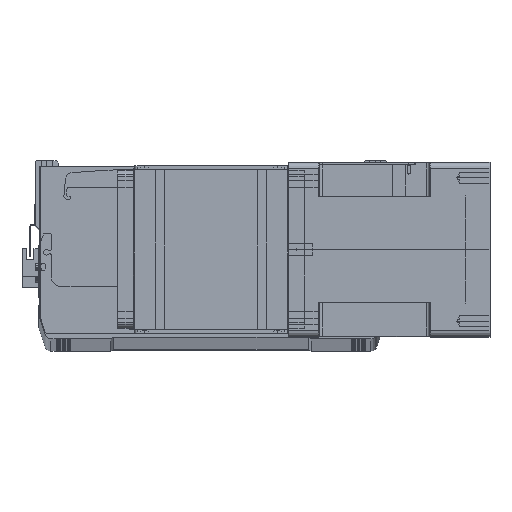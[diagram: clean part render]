
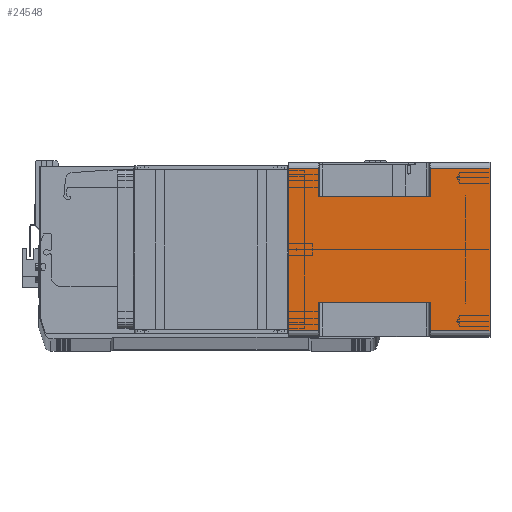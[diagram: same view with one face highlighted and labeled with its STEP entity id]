
A CAD part, top view. The second image highlights one B-rep face of the part: STEP entity #24548.
In plain terms, the highlighted planar face has unit normal (0, 0, 1) as drawn and (1, 0, 0) by its records, which use the part's own axes.
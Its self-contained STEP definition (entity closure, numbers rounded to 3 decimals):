
#4 = DIRECTION ( 'NONE',  ( 0., 1., 0. ) ) ;
#456 = EDGE_CURVE ( 'NONE', #13364, #13873, #38822, .T. ) ;
#817 = DIRECTION ( 'NONE',  ( 0., -1., 0. ) ) ;
#1207 = CARTESIAN_POINT ( 'NONE',  ( 71., -66., -164. ) ) ;
#1883 = CARTESIAN_POINT ( 'NONE',  ( 71., 66., -164. ) ) ;
#2069 = VECTOR ( 'NONE', #3099, 1000. ) ;
#3099 = DIRECTION ( 'NONE',  ( 0., 1., 0. ) ) ;
#3200 = ORIENTED_EDGE ( 'NONE', *, *, #27372, .T. ) ;
#4025 = CARTESIAN_POINT ( 'NONE',  ( 71., -66., -115.5 ) ) ;
#4727 = LINE ( 'NONE', #20976, #11710 ) ;
#5116 = LINE ( 'NONE', #33322, #10604 ) ;
#5260 = LINE ( 'NONE', #1883, #33925 ) ;
#5501 = ORIENTED_EDGE ( 'NONE', *, *, #37075, .T. ) ;
#6479 = VECTOR ( 'NONE', #817, 1000. ) ;
#7031 = DIRECTION ( 'NONE',  ( 0., 0., 1. ) ) ;
#7483 = CARTESIAN_POINT ( 'NONE',  ( 71., 43., -115.5 ) ) ;
#7740 = VECTOR ( 'NONE', #14244, 1000. ) ;
#7841 = VECTOR ( 'NONE', #9252, 1000. ) ;
#7901 = ORIENTED_EDGE ( 'NONE', *, *, #21051, .T. ) ;
#7914 = VERTEX_POINT ( 'NONE', #23309 ) ;
#8844 = CARTESIAN_POINT ( 'NONE',  ( 71., -43., -115.5 ) ) ;
#9172 = ORIENTED_EDGE ( 'NONE', *, *, #28484, .T. ) ;
#9252 = DIRECTION ( 'NONE',  ( 0., -1., 0. ) ) ;
#9408 = CARTESIAN_POINT ( 'NONE',  ( 71., -66., -24.5 ) ) ;
#9967 = DIRECTION ( 'NONE',  ( 1., 0., 0. ) ) ;
#10604 = VECTOR ( 'NONE', #11781, 1000. ) ;
#10803 = CARTESIAN_POINT ( 'NONE',  ( 71., 66., 0. ) ) ;
#10947 = DIRECTION ( 'NONE',  ( 0., 0., -1. ) ) ;
#11218 = CARTESIAN_POINT ( 'NONE',  ( 71., 66., -24.5 ) ) ;
#11239 = VERTEX_POINT ( 'NONE', #7483 ) ;
#11604 = ORIENTED_EDGE ( 'NONE', *, *, #16230, .F. ) ;
#11616 = LINE ( 'NONE', #29671, #27753 ) ;
#11668 = LINE ( 'NONE', #23748, #13176 ) ;
#11710 = VECTOR ( 'NONE', #12095, 1000. ) ;
#11781 = DIRECTION ( 'NONE',  ( 0., 0., 1. ) ) ;
#11833 = VERTEX_POINT ( 'NONE', #24466 ) ;
#12043 = EDGE_CURVE ( 'NONE', #38149, #37435, #37483, .T. ) ;
#12095 = DIRECTION ( 'NONE',  ( 0., 1., 0. ) ) ;
#12963 = VERTEX_POINT ( 'NONE', #29284 ) ;
#13176 = VECTOR ( 'NONE', #10947, 1000. ) ;
#13290 = EDGE_CURVE ( 'NONE', #11833, #24747, #4727, .T. ) ;
#13364 = VERTEX_POINT ( 'NONE', #9408 ) ;
#13570 = EDGE_CURVE ( 'NONE', #11833, #11239, #11668, .T. ) ;
#13873 = VERTEX_POINT ( 'NONE', #25712 ) ;
#14244 = DIRECTION ( 'NONE',  ( 0., 1., 0. ) ) ;
#14458 = VERTEX_POINT ( 'NONE', #10803 ) ;
#16031 = EDGE_CURVE ( 'NONE', #37959, #37435, #11616, .T. ) ;
#16132 = PLANE ( 'NONE',  #23709 ) ;
#16230 = EDGE_CURVE ( 'NONE', #38149, #7914, #5116, .T. ) ;
#16274 = LINE ( 'NONE', #23386, #7740 ) ;
#16337 = VERTEX_POINT ( 'NONE', #25867 ) ;
#16384 = EDGE_CURVE ( 'NONE', #13364, #7914, #22174, .T. ) ;
#17032 = EDGE_LOOP ( 'NONE', ( #11604, #26581, #25174, #7901, #3200, #5501, #29149, #26482, #9172, #21273, #18551, #26441 ) ) ;
#18551 = ORIENTED_EDGE ( 'NONE', *, *, #456, .F. ) ;
#18877 = CARTESIAN_POINT ( 'NONE',  ( 71., 66., -164. ) ) ;
#19078 = LINE ( 'NONE', #18877, #29160 ) ;
#19719 = CARTESIAN_POINT ( 'NONE',  ( 71., 43., -115.5 ) ) ;
#20369 = CARTESIAN_POINT ( 'NONE',  ( 71., -66., -164. ) ) ;
#20976 = CARTESIAN_POINT ( 'NONE',  ( 71., -66., -24.5 ) ) ;
#21051 = EDGE_CURVE ( 'NONE', #37959, #16337, #30136, .T. ) ;
#21234 = VECTOR ( 'NONE', #23753, 1000. ) ;
#21273 = ORIENTED_EDGE ( 'NONE', *, *, #32660, .F. ) ;
#22001 = CARTESIAN_POINT ( 'NONE',  ( 71., -66., -164. ) ) ;
#22174 = LINE ( 'NONE', #22332, #2069 ) ;
#22332 = CARTESIAN_POINT ( 'NONE',  ( 71., -43., -24.5 ) ) ;
#23309 = CARTESIAN_POINT ( 'NONE',  ( 71., -43., -24.5 ) ) ;
#23386 = CARTESIAN_POINT ( 'NONE',  ( 71., -66., 0. ) ) ;
#23709 = AXIS2_PLACEMENT_3D ( 'NONE', #38749, #9967, #35950 ) ;
#23748 = CARTESIAN_POINT ( 'NONE',  ( 71., 43., -164. ) ) ;
#23753 = DIRECTION ( 'NONE',  ( 0., 0., 1. ) ) ;
#24466 = CARTESIAN_POINT ( 'NONE',  ( 71., 43., -24.5 ) ) ;
#24548 = ADVANCED_FACE ( 'NONE', ( #30710 ), #16132, .T. ) ;
#24747 = VERTEX_POINT ( 'NONE', #11218 ) ;
#25174 = ORIENTED_EDGE ( 'NONE', *, *, #16031, .F. ) ;
#25712 = CARTESIAN_POINT ( 'NONE',  ( 71., -66., 0. ) ) ;
#25867 = CARTESIAN_POINT ( 'NONE',  ( 71., 66., -164. ) ) ;
#26441 = ORIENTED_EDGE ( 'NONE', *, *, #16384, .T. ) ;
#26482 = ORIENTED_EDGE ( 'NONE', *, *, #13290, .T. ) ;
#26581 = ORIENTED_EDGE ( 'NONE', *, *, #12043, .T. ) ;
#27372 = EDGE_CURVE ( 'NONE', #16337, #12963, #5260, .T. ) ;
#27753 = VECTOR ( 'NONE', #7031, 1000. ) ;
#28484 = EDGE_CURVE ( 'NONE', #24747, #14458, #19078, .T. ) ;
#29149 = ORIENTED_EDGE ( 'NONE', *, *, #13570, .F. ) ;
#29160 = VECTOR ( 'NONE', #31829, 1000. ) ;
#29284 = CARTESIAN_POINT ( 'NONE',  ( 71., 66., -115.5 ) ) ;
#29671 = CARTESIAN_POINT ( 'NONE',  ( 71., -66., -164. ) ) ;
#30136 = LINE ( 'NONE', #22001, #40194 ) ;
#30710 = FACE_OUTER_BOUND ( 'NONE', #17032, .T. ) ;
#31687 = LINE ( 'NONE', #19719, #6479 ) ;
#31829 = DIRECTION ( 'NONE',  ( 0., 0., 1. ) ) ;
#32660 = EDGE_CURVE ( 'NONE', #13873, #14458, #16274, .T. ) ;
#33322 = CARTESIAN_POINT ( 'NONE',  ( 71., -43., -164. ) ) ;
#33925 = VECTOR ( 'NONE', #34293, 1000. ) ;
#34293 = DIRECTION ( 'NONE',  ( 0., 0., 1. ) ) ;
#35240 = CARTESIAN_POINT ( 'NONE',  ( 71., -66., -115.5 ) ) ;
#35950 = DIRECTION ( 'NONE',  ( 0., 1., 0. ) ) ;
#37075 = EDGE_CURVE ( 'NONE', #12963, #11239, #31687, .T. ) ;
#37435 = VERTEX_POINT ( 'NONE', #4025 ) ;
#37483 = LINE ( 'NONE', #35240, #7841 ) ;
#37959 = VERTEX_POINT ( 'NONE', #1207 ) ;
#38149 = VERTEX_POINT ( 'NONE', #8844 ) ;
#38749 = CARTESIAN_POINT ( 'NONE',  ( 71., -66., -164. ) ) ;
#38822 = LINE ( 'NONE', #20369, #21234 ) ;
#40194 = VECTOR ( 'NONE', #4, 1000. ) ;
